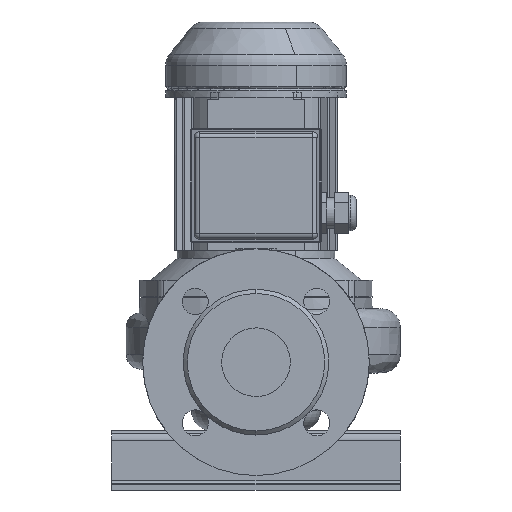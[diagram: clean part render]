
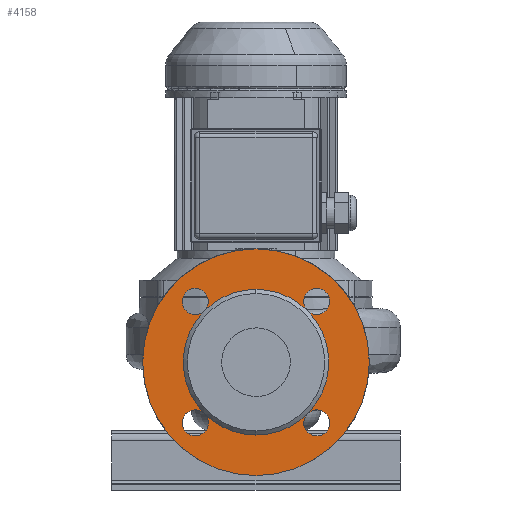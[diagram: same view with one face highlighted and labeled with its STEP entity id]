
A CAD part, front view. The second image highlights one B-rep face of the part: STEP entity #4158.
In plain terms, the highlighted planar face has unit normal (0, -1, 0) as drawn and (0, 1, 0) by its records, which use the part's own axes.
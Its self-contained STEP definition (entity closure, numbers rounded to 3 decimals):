
#4158=ADVANCED_FACE('',(#8307,#8308),#8309,.T.);
#4190=EDGE_CURVE('',#8359,#8360,#8361,.T.);
#4192=EDGE_CURVE('',#8363,#8359,#8364,.T.);
#4194=EDGE_CURVE('',#8366,#8363,#8367,.T.);
#4198=EDGE_CURVE('',#8373,#8374,#8375,.T.);
#4202=EDGE_CURVE('',#8381,#8382,#8383,.T.);
#4206=EDGE_CURVE('',#8389,#8390,#8391,.T.);
#4210=EDGE_CURVE('',#8397,#8398,#8399,.T.);
#4212=EDGE_CURVE('',#8401,#8402,#8403,.T.);
#4352=EDGE_CURVE('',#8402,#8401,#8606,.T.);
#4362=EDGE_CURVE('',#8363,#8397,#8616,.T.);
#4364=EDGE_CURVE('',#8398,#8363,#8618,.T.);
#4366=EDGE_CURVE('',#8359,#8389,#8620,.T.);
#4368=EDGE_CURVE('',#8390,#8359,#8622,.T.);
#4370=EDGE_CURVE('',#8624,#8381,#8625,.T.);
#4372=EDGE_CURVE('',#8382,#8624,#8627,.T.);
#4374=EDGE_CURVE('',#8629,#8373,#8630,.T.);
#4376=EDGE_CURVE('',#8374,#8629,#8632,.T.);
#4378=EDGE_CURVE('',#8360,#8624,#8634,.T.);
#4380=EDGE_CURVE('',#8624,#8629,#8636,.T.);
#4382=EDGE_CURVE('',#8629,#8366,#8638,.T.);
#8307=FACE_OUTER_BOUND('',#14820,.T.);
#8308=FACE_BOUND('',#14821,.T.);
#8309=PLANE('',#14822);
#8359=VERTEX_POINT('',#15883);
#8360=VERTEX_POINT('',#15884);
#8361=CIRCLE('',#15885,53.0);
#8363=VERTEX_POINT('',#15888);
#8364=CIRCLE('',#15889,53.0);
#8366=VERTEX_POINT('',#15892);
#8367=CIRCLE('',#15893,53.0);
#8373=VERTEX_POINT('',#15901);
#8374=VERTEX_POINT('',#15902);
#8375=CIRCLE('',#15903,9.5);
#8381=VERTEX_POINT('',#15911);
#8382=VERTEX_POINT('',#15912);
#8383=CIRCLE('',#15913,9.5);
#8389=VERTEX_POINT('',#15921);
#8390=VERTEX_POINT('',#15922);
#8391=CIRCLE('',#15923,9.5);
#8397=VERTEX_POINT('',#15931);
#8398=VERTEX_POINT('',#15932);
#8399=CIRCLE('',#15933,9.5);
#8401=VERTEX_POINT('',#15936);
#8402=VERTEX_POINT('',#15937);
#8403=CIRCLE('',#15938,82.5);
#8606=CIRCLE('',#16280,82.5);
#8616=CIRCLE('',#16295,9.5);
#8618=CIRCLE('',#16298,9.5);
#8620=CIRCLE('',#16301,9.5);
#8622=CIRCLE('',#16304,9.5);
#8624=VERTEX_POINT('',#16307);
#8625=CIRCLE('',#16308,9.5);
#8627=CIRCLE('',#16311,9.5);
#8629=VERTEX_POINT('',#16314);
#8630=CIRCLE('',#16315,9.5);
#8632=CIRCLE('',#16318,9.5);
#8634=CIRCLE('',#16321,53.0);
#8636=CIRCLE('',#16324,53.0);
#8638=CIRCLE('',#16327,53.0);
#14820=EDGE_LOOP('',(#22885,#22886));
#14821=EDGE_LOOP('',(#22887,#22888,#22889,#22890,#22891,#22892,#22893,#22894,#22895,#22896,#22897,#22898,#22899,#22900,#22901,#22902,#22903,#22904));
#14822=AXIS2_PLACEMENT_3D('',#22905,#22906,#22907);
#15883=CARTESIAN_POINT('',(37.477,137.0,21.977));
#15884=CARTESIAN_POINT('',(0.,137.0,37.5));
#15885=AXIS2_PLACEMENT_3D('',#23029,#23030,#23031);
#15888=CARTESIAN_POINT('',(37.477,137.0,-52.977));
#15889=AXIS2_PLACEMENT_3D('',#23032,#23033,#23034);
#15892=CARTESIAN_POINT('',(0.,137.0,-68.5));
#15893=AXIS2_PLACEMENT_3D('',#23035,#23036,#23037);
#15901=CARTESIAN_POINT('',(-49.553,137.0,-51.85));
#15902=CARTESIAN_POINT('',(-38.835,137.0,-67.538));
#15903=AXIS2_PLACEMENT_3D('',#23041,#23042,#23043);
#15911=CARTESIAN_POINT('',(-36.35,137.,34.053));
#15912=CARTESIAN_POINT('',(-52.038,137.,23.335));
#15913=AXIS2_PLACEMENT_3D('',#23047,#23048,#23049);
#15921=CARTESIAN_POINT('',(49.553,137.,20.85));
#15922=CARTESIAN_POINT('',(38.835,137.,36.538));
#15923=AXIS2_PLACEMENT_3D('',#23053,#23054,#23055);
#15931=CARTESIAN_POINT('',(36.35,137.0,-65.053));
#15932=CARTESIAN_POINT('',(52.038,137.0,-54.335));
#15933=AXIS2_PLACEMENT_3D('',#23059,#23060,#23061);
#15936=CARTESIAN_POINT('',(0.,137.0,-98.0));
#15937=CARTESIAN_POINT('',(0.,137.0,67.0));
#15938=AXIS2_PLACEMENT_3D('',#23062,#23063,#23064);
#16280=AXIS2_PLACEMENT_3D('',#23246,#23247,#23248);
#16295=AXIS2_PLACEMENT_3D('',#23261,#23262,#23263);
#16298=AXIS2_PLACEMENT_3D('',#23264,#23265,#23266);
#16301=AXIS2_PLACEMENT_3D('',#23267,#23268,#23269);
#16304=AXIS2_PLACEMENT_3D('',#23270,#23271,#23272);
#16307=CARTESIAN_POINT('',(-37.477,137.0,21.977));
#16308=AXIS2_PLACEMENT_3D('',#23273,#23274,#23275);
#16311=AXIS2_PLACEMENT_3D('',#23276,#23277,#23278);
#16314=CARTESIAN_POINT('',(-37.477,137.0,-52.977));
#16315=AXIS2_PLACEMENT_3D('',#23279,#23280,#23281);
#16318=AXIS2_PLACEMENT_3D('',#23282,#23283,#23284);
#16321=AXIS2_PLACEMENT_3D('',#23285,#23286,#23287);
#16324=AXIS2_PLACEMENT_3D('',#23288,#23289,#23290);
#16327=AXIS2_PLACEMENT_3D('',#23291,#23292,#23293);
#22885=ORIENTED_EDGE('',*,*,#4352,.F.);
#22886=ORIENTED_EDGE('',*,*,#4212,.F.);
#22887=ORIENTED_EDGE('',*,*,#4190,.T.);
#22888=ORIENTED_EDGE('',*,*,#4378,.T.);
#22889=ORIENTED_EDGE('',*,*,#4370,.T.);
#22890=ORIENTED_EDGE('',*,*,#4202,.T.);
#22891=ORIENTED_EDGE('',*,*,#4372,.T.);
#22892=ORIENTED_EDGE('',*,*,#4380,.T.);
#22893=ORIENTED_EDGE('',*,*,#4374,.T.);
#22894=ORIENTED_EDGE('',*,*,#4198,.T.);
#22895=ORIENTED_EDGE('',*,*,#4376,.T.);
#22896=ORIENTED_EDGE('',*,*,#4382,.T.);
#22897=ORIENTED_EDGE('',*,*,#4194,.T.);
#22898=ORIENTED_EDGE('',*,*,#4362,.T.);
#22899=ORIENTED_EDGE('',*,*,#4210,.T.);
#22900=ORIENTED_EDGE('',*,*,#4364,.T.);
#22901=ORIENTED_EDGE('',*,*,#4192,.T.);
#22902=ORIENTED_EDGE('',*,*,#4366,.T.);
#22903=ORIENTED_EDGE('',*,*,#4206,.T.);
#22904=ORIENTED_EDGE('',*,*,#4368,.T.);
#22905=CARTESIAN_POINT('',(0.,137.0,-83.25));
#22906=DIRECTION('',(0.0,1.0,0.0));
#22907=DIRECTION('',(0.0,0.0,1.0));
#23029=CARTESIAN_POINT('',(0.,137.0,-15.5));
#23030=DIRECTION('',(0.0,-1.0,0.0));
#23031=DIRECTION('',(0.,0.0,-1.0));
#23032=CARTESIAN_POINT('',(0.,137.0,-15.5));
#23033=DIRECTION('',(0.0,-1.0,0.0));
#23034=DIRECTION('',(0.,0.0,-1.0));
#23035=CARTESIAN_POINT('',(0.,137.0,-15.5));
#23036=DIRECTION('',(0.0,-1.0,0.0));
#23037=DIRECTION('',(0.,0.0,-1.0));
#23041=CARTESIAN_POINT('',(-44.194,137.0,-59.694));
#23042=DIRECTION('',(0.0,-1.0,0.0));
#23043=DIRECTION('',(-0.564,0.0,0.826));
#23047=CARTESIAN_POINT('',(-44.194,137.,28.694));
#23048=DIRECTION('',(0.0,-1.0,0.0));
#23049=DIRECTION('',(0.826,0.0,0.564));
#23053=CARTESIAN_POINT('',(44.194,137.,28.694));
#23054=DIRECTION('',(0.0,-1.0,0.0));
#23055=DIRECTION('',(0.564,0.0,-0.826));
#23059=CARTESIAN_POINT('',(44.194,137.0,-59.694));
#23060=DIRECTION('',(0.0,-1.0,-0.0));
#23061=DIRECTION('',(-0.826,0.0,-0.564));
#23062=CARTESIAN_POINT('',(0.,137.0,-15.5));
#23063=DIRECTION('',(0.0,-1.0,0.0));
#23064=DIRECTION('',(0.,0.0,-1.0));
#23246=CARTESIAN_POINT('',(0.,137.0,-15.5));
#23247=DIRECTION('',(0.0,-1.0,0.0));
#23248=DIRECTION('',(0.,0.0,-1.0));
#23261=CARTESIAN_POINT('',(44.194,137.0,-59.694));
#23262=DIRECTION('',(0.0,-1.0,-0.0));
#23263=DIRECTION('',(-0.826,0.0,-0.564));
#23264=CARTESIAN_POINT('',(44.194,137.0,-59.694));
#23265=DIRECTION('',(0.0,-1.0,-0.0));
#23266=DIRECTION('',(-0.826,0.0,-0.564));
#23267=CARTESIAN_POINT('',(44.194,137.,28.694));
#23268=DIRECTION('',(0.0,-1.0,0.0));
#23269=DIRECTION('',(0.564,0.0,-0.826));
#23270=CARTESIAN_POINT('',(44.194,137.,28.694));
#23271=DIRECTION('',(0.0,-1.0,0.0));
#23272=DIRECTION('',(0.564,0.0,-0.826));
#23273=CARTESIAN_POINT('',(-44.194,137.,28.694));
#23274=DIRECTION('',(0.0,-1.0,0.0));
#23275=DIRECTION('',(0.826,0.0,0.564));
#23276=CARTESIAN_POINT('',(-44.194,137.,28.694));
#23277=DIRECTION('',(0.0,-1.0,0.0));
#23278=DIRECTION('',(0.826,0.0,0.564));
#23279=CARTESIAN_POINT('',(-44.194,137.0,-59.694));
#23280=DIRECTION('',(0.0,-1.0,0.0));
#23281=DIRECTION('',(-0.564,0.0,0.826));
#23282=CARTESIAN_POINT('',(-44.194,137.0,-59.694));
#23283=DIRECTION('',(0.0,-1.0,0.0));
#23284=DIRECTION('',(-0.564,0.0,0.826));
#23285=CARTESIAN_POINT('',(0.,137.0,-15.5));
#23286=DIRECTION('',(0.0,-1.0,0.0));
#23287=DIRECTION('',(0.,0.0,-1.0));
#23288=CARTESIAN_POINT('',(0.,137.0,-15.5));
#23289=DIRECTION('',(0.0,-1.0,0.0));
#23290=DIRECTION('',(0.,0.0,-1.0));
#23291=CARTESIAN_POINT('',(0.,137.0,-15.5));
#23292=DIRECTION('',(0.0,-1.0,0.0));
#23293=DIRECTION('',(0.,0.0,-1.0));
